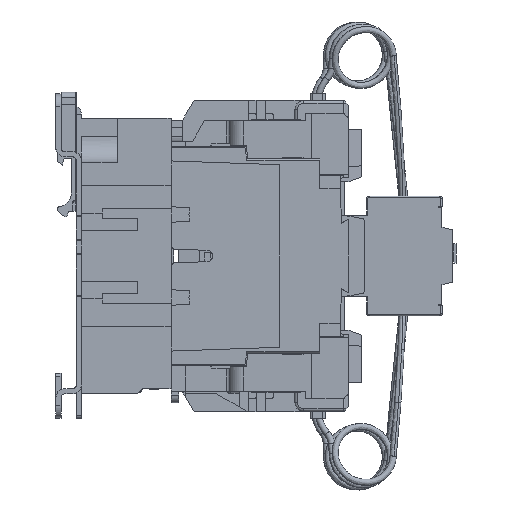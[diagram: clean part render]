
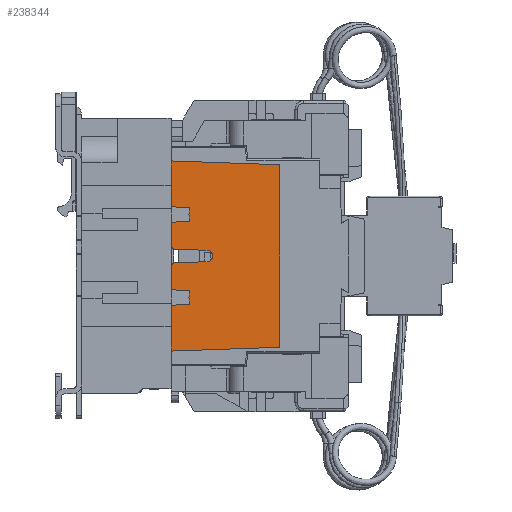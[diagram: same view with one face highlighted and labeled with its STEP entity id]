
A CAD part, left-side view. The second image highlights one B-rep face of the part: STEP entity #238344.
In plain terms, the highlighted planar face has unit normal (-1, 0, 0).
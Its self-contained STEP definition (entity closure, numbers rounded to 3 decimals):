
#9675=DIRECTION('',(0.,0.,-1.));
#9676=VECTOR('',#9675,17.983);
#9677=CARTESIAN_POINT('',(-40.75,-17.55,37.234));
#9678=LINE('',#9677,#9676);
#9696=DIRECTION('',(0.,0.,-1.));
#9697=VECTOR('',#9696,8.749);
#9698=CARTESIAN_POINT('',(-40.75,-17.55,13.249));
#9699=LINE('',#9698,#9697);
#9815=DIRECTION('',(0.,0.,-1.));
#9816=VECTOR('',#9815,8.749);
#9817=CARTESIAN_POINT('',(-40.75,-17.55,-4.5));
#9818=LINE('',#9817,#9816);
#9836=DIRECTION('',(0.,0.,-1.));
#9837=VECTOR('',#9836,17.983);
#9838=CARTESIAN_POINT('',(-40.75,-17.55,-19.251));
#9839=LINE('',#9838,#9837);
#79459=CARTESIAN_POINT('',(-40.75,-19.55,4.5));
#79460=DIRECTION('',(1.,0.,0.));
#79461=DIRECTION('',(0.,0.017,-1.));
#79462=AXIS2_PLACEMENT_3D('',#79459,#79460,#79461);
#79467=DIRECTION('',(0.,-0.999,0.035));
#79468=VECTOR('',#79467,7.204);
#79469=CARTESIAN_POINT('',(-40.75,-17.55,13.249));
#79470=LINE('',#79469,#79468);
#79474=DIRECTION('',(0.,0.,1.));
#79475=VECTOR('',#79474,2.25);
#79476=CARTESIAN_POINT('',(-40.75,-24.75,13.5));
#79477=LINE('',#79476,#79475);
#79481=DIRECTION('',(0.,0.707,0.707));
#79482=VECTOR('',#79481,0.707);
#79483=CARTESIAN_POINT('',(-40.75,-24.75,15.75));
#79484=LINE('',#79483,#79482);
#79488=DIRECTION('',(0.,-0.707,0.707));
#79489=VECTOR('',#79488,0.707);
#79490=CARTESIAN_POINT('',(-40.75,-24.25,16.25));
#79491=LINE('',#79490,#79489);
#79495=DIRECTION('',(0.,0.,1.));
#79496=VECTOR('',#79495,2.25);
#79497=CARTESIAN_POINT('',(-40.75,-24.75,16.75));
#79498=LINE('',#79497,#79496);
#79502=DIRECTION('',(0.,0.999,0.035));
#79503=VECTOR('',#79502,7.204);
#79504=CARTESIAN_POINT('',(-40.75,-24.75,19.));
#79505=LINE('',#79504,#79503);
#79509=DIRECTION('',(0.,-0.999,-0.035));
#79510=VECTOR('',#79509,42.526);
#79511=CARTESIAN_POINT('',(-40.75,-17.55,37.234));
#79512=LINE('',#79511,#79510);
#79516=DIRECTION('',(0.,0.,-1.));
#79517=VECTOR('',#79516,71.5);
#79518=CARTESIAN_POINT('',(-40.75,-60.05,35.75));
#79519=LINE('',#79518,#79517);
#79523=DIRECTION('',(0.,0.999,-0.035));
#79524=VECTOR('',#79523,42.526);
#79525=CARTESIAN_POINT('',(-40.75,-60.05,-35.75));
#79526=LINE('',#79525,#79524);
#79530=DIRECTION('',(0.,-0.999,0.035));
#79531=VECTOR('',#79530,7.204);
#79532=CARTESIAN_POINT('',(-40.75,-17.55,-19.251));
#79533=LINE('',#79532,#79531);
#79537=DIRECTION('',(0.,0.,1.));
#79538=VECTOR('',#79537,2.25);
#79539=CARTESIAN_POINT('',(-40.75,-24.75,-19.));
#79540=LINE('',#79539,#79538);
#79544=DIRECTION('',(0.,0.707,0.707));
#79545=VECTOR('',#79544,0.707);
#79546=CARTESIAN_POINT('',(-40.75,-24.75,-16.75));
#79547=LINE('',#79546,#79545);
#79551=DIRECTION('',(0.,-0.707,0.707));
#79552=VECTOR('',#79551,0.707);
#79553=CARTESIAN_POINT('',(-40.75,-24.25,-16.25));
#79554=LINE('',#79553,#79552);
#79558=DIRECTION('',(0.,0.,1.));
#79559=VECTOR('',#79558,2.25);
#79560=CARTESIAN_POINT('',(-40.75,-24.75,-15.75));
#79561=LINE('',#79560,#79559);
#79565=DIRECTION('',(0.,0.999,0.035));
#79566=VECTOR('',#79565,7.204);
#79567=CARTESIAN_POINT('',(-40.75,-24.75,-13.5));
#79568=LINE('',#79567,#79566);
#79572=CARTESIAN_POINT('',(-40.75,-19.55,-4.5));
#79573=DIRECTION('',(1.,0.,0.));
#79574=DIRECTION('',(0.,1.,0.));
#79575=AXIS2_PLACEMENT_3D('',#79572,#79573,#79574);
#79580=DIRECTION('',(0.,-1.,0.017));
#79581=VECTOR('',#79580,12.126);
#79582=CARTESIAN_POINT('',(-40.75,-19.515,-2.5));
#79583=LINE('',#79582,#79581);
#79587=CARTESIAN_POINT('',(-40.75,-31.6,-0.039));
#79588=DIRECTION('',(-1.,0.,0.));
#79589=DIRECTION('',(0.,-0.017,-1.));
#79590=AXIS2_PLACEMENT_3D('',#79587,#79588,#79589);
#79595=DIRECTION('',(0.,0.,1.));
#79596=VECTOR('',#79595,0.078);
#79597=CARTESIAN_POINT('',(-40.75,-33.85,-0.039));
#79598=LINE('',#79597,#79596);
#79602=CARTESIAN_POINT('',(-40.75,-31.6,0.039));
#79603=DIRECTION('',(-1.,0.,0.));
#79604=DIRECTION('',(0.,-1.,0.));
#79605=AXIS2_PLACEMENT_3D('',#79602,#79603,#79604);
#79610=DIRECTION('',(0.,1.,0.017));
#79611=VECTOR('',#79610,12.126);
#79612=CARTESIAN_POINT('',(-40.75,-31.639,2.289));
#79613=LINE('',#79612,#79611);
#157826=CARTESIAN_POINT('',(-40.75,-17.55,37.234));
#157827=VERTEX_POINT('',#157826);
#157828=CARTESIAN_POINT('',(-40.75,-17.55,19.251));
#157829=VERTEX_POINT('',#157828);
#157834=CARTESIAN_POINT('',(-40.75,-17.55,13.249));
#157835=VERTEX_POINT('',#157834);
#157836=CARTESIAN_POINT('',(-40.75,-17.55,4.5));
#157837=VERTEX_POINT('',#157836);
#166410=CARTESIAN_POINT('',(-40.75,-17.55,-4.5));
#166411=VERTEX_POINT('',#166410);
#166412=CARTESIAN_POINT('',(-40.75,-17.55,-13.249));
#166413=VERTEX_POINT('',#166412);
#166418=CARTESIAN_POINT('',(-40.75,-17.55,-19.251));
#166419=VERTEX_POINT('',#166418);
#166420=CARTESIAN_POINT('',(-40.75,-17.55,-37.234));
#166421=VERTEX_POINT('',#166420);
#171128=CARTESIAN_POINT('',(-40.75,-19.515,2.5));
#171129=VERTEX_POINT('',#171128);
#171130=CARTESIAN_POINT('',(-40.75,-24.75,13.5));
#171131=VERTEX_POINT('',#171130);
#171132=CARTESIAN_POINT('',(-40.75,-24.75,15.75));
#171133=VERTEX_POINT('',#171132);
#171134=CARTESIAN_POINT('',(-40.75,-24.25,16.25));
#171135=VERTEX_POINT('',#171134);
#171136=CARTESIAN_POINT('',(-40.75,-24.75,16.75));
#171137=VERTEX_POINT('',#171136);
#171138=CARTESIAN_POINT('',(-40.75,-24.75,19.));
#171139=VERTEX_POINT('',#171138);
#171140=CARTESIAN_POINT('',(-40.75,-60.05,35.75));
#171141=VERTEX_POINT('',#171140);
#171142=CARTESIAN_POINT('',(-40.75,-60.05,-35.75));
#171143=VERTEX_POINT('',#171142);
#171144=CARTESIAN_POINT('',(-40.75,-24.75,-19.));
#171145=VERTEX_POINT('',#171144);
#171146=CARTESIAN_POINT('',(-40.75,-24.75,-16.75));
#171147=VERTEX_POINT('',#171146);
#171148=CARTESIAN_POINT('',(-40.75,-24.25,-16.25));
#171149=VERTEX_POINT('',#171148);
#171150=CARTESIAN_POINT('',(-40.75,-24.75,-15.75));
#171151=VERTEX_POINT('',#171150);
#171152=CARTESIAN_POINT('',(-40.75,-24.75,-13.5));
#171153=VERTEX_POINT('',#171152);
#171154=CARTESIAN_POINT('',(-40.75,-19.515,-2.5));
#171155=VERTEX_POINT('',#171154);
#171156=CARTESIAN_POINT('',(-40.75,-31.639,-2.289));
#171157=VERTEX_POINT('',#171156);
#171158=CARTESIAN_POINT('',(-40.75,-33.85,-0.039));
#171159=VERTEX_POINT('',#171158);
#171160=CARTESIAN_POINT('',(-40.75,-33.85,0.039));
#171161=VERTEX_POINT('',#171160);
#171162=CARTESIAN_POINT('',(-40.75,-31.639,2.289));
#171163=VERTEX_POINT('',#171162);
#238290=CARTESIAN_POINT('',(-40.75,-87.05,0.));
#238291=DIRECTION('',(1.,0.,0.));
#238292=DIRECTION('',(0.,0.,1.));
#238293=AXIS2_PLACEMENT_3D('',#238290,#238291,#238292);
#238294=PLANE('',#238293);
#238295=ORIENTED_EDGE('',*,*,#238281,.T.);
#238296=ORIENTED_EDGE('',*,*,#184342,.F.);
#238298=ORIENTED_EDGE('',*,*,#238297,.T.);
#238300=ORIENTED_EDGE('',*,*,#238299,.T.);
#238302=ORIENTED_EDGE('',*,*,#238301,.T.);
#238304=ORIENTED_EDGE('',*,*,#238303,.T.);
#238306=ORIENTED_EDGE('',*,*,#238305,.T.);
#238308=ORIENTED_EDGE('',*,*,#238307,.T.);
#238309=ORIENTED_EDGE('',*,*,#184334,.F.);
#238311=ORIENTED_EDGE('',*,*,#238310,.T.);
#238313=ORIENTED_EDGE('',*,*,#238312,.T.);
#238315=ORIENTED_EDGE('',*,*,#238314,.T.);
#238316=ORIENTED_EDGE('',*,*,#184422,.F.);
#238318=ORIENTED_EDGE('',*,*,#238317,.T.);
#238320=ORIENTED_EDGE('',*,*,#238319,.T.);
#238322=ORIENTED_EDGE('',*,*,#238321,.T.);
#238324=ORIENTED_EDGE('',*,*,#238323,.T.);
#238326=ORIENTED_EDGE('',*,*,#238325,.T.);
#238328=ORIENTED_EDGE('',*,*,#238327,.T.);
#238329=ORIENTED_EDGE('',*,*,#184414,.F.);
#238331=ORIENTED_EDGE('',*,*,#238330,.T.);
#238333=ORIENTED_EDGE('',*,*,#238332,.T.);
#238335=ORIENTED_EDGE('',*,*,#238334,.T.);
#238337=ORIENTED_EDGE('',*,*,#238336,.T.);
#238339=ORIENTED_EDGE('',*,*,#238338,.T.);
#238341=ORIENTED_EDGE('',*,*,#238340,.T.);
#238342=EDGE_LOOP('',(#238295,#238296,#238298,#238300,#238302,#238304,#238306,
#238308,#238309,#238311,#238313,#238315,#238316,#238318,#238320,#238322,#238324,
#238326,#238328,#238329,#238331,#238333,#238335,#238337,#238339,#238341));
#238343=FACE_OUTER_BOUND('',#238342,.F.);
#238344=ADVANCED_FACE('',(#238343),#238294,.F.);
#79463=CIRCLE('',#79462,2.);
#79576=CIRCLE('',#79575,2.);
#79591=CIRCLE('',#79590,2.25);
#79606=CIRCLE('',#79605,2.25);
#184334=EDGE_CURVE('',#157827,#157829,#9678,.T.);
#184342=EDGE_CURVE('',#157835,#157837,#9699,.T.);
#184414=EDGE_CURVE('',#166411,#166413,#9818,.T.);
#184422=EDGE_CURVE('',#166419,#166421,#9839,.T.);
#238281=EDGE_CURVE('',#171129,#157837,#79463,.T.);
#238297=EDGE_CURVE('',#157835,#171131,#79470,.T.);
#238299=EDGE_CURVE('',#171131,#171133,#79477,.T.);
#238301=EDGE_CURVE('',#171133,#171135,#79484,.T.);
#238303=EDGE_CURVE('',#171135,#171137,#79491,.T.);
#238305=EDGE_CURVE('',#171137,#171139,#79498,.T.);
#238307=EDGE_CURVE('',#171139,#157829,#79505,.T.);
#238310=EDGE_CURVE('',#157827,#171141,#79512,.T.);
#238312=EDGE_CURVE('',#171141,#171143,#79519,.T.);
#238314=EDGE_CURVE('',#171143,#166421,#79526,.T.);
#238317=EDGE_CURVE('',#166419,#171145,#79533,.T.);
#238319=EDGE_CURVE('',#171145,#171147,#79540,.T.);
#238321=EDGE_CURVE('',#171147,#171149,#79547,.T.);
#238323=EDGE_CURVE('',#171149,#171151,#79554,.T.);
#238325=EDGE_CURVE('',#171151,#171153,#79561,.T.);
#238327=EDGE_CURVE('',#171153,#166413,#79568,.T.);
#238330=EDGE_CURVE('',#166411,#171155,#79576,.T.);
#238332=EDGE_CURVE('',#171155,#171157,#79583,.T.);
#238334=EDGE_CURVE('',#171157,#171159,#79591,.T.);
#238336=EDGE_CURVE('',#171159,#171161,#79598,.T.);
#238338=EDGE_CURVE('',#171161,#171163,#79606,.T.);
#238340=EDGE_CURVE('',#171163,#171129,#79613,.T.);
